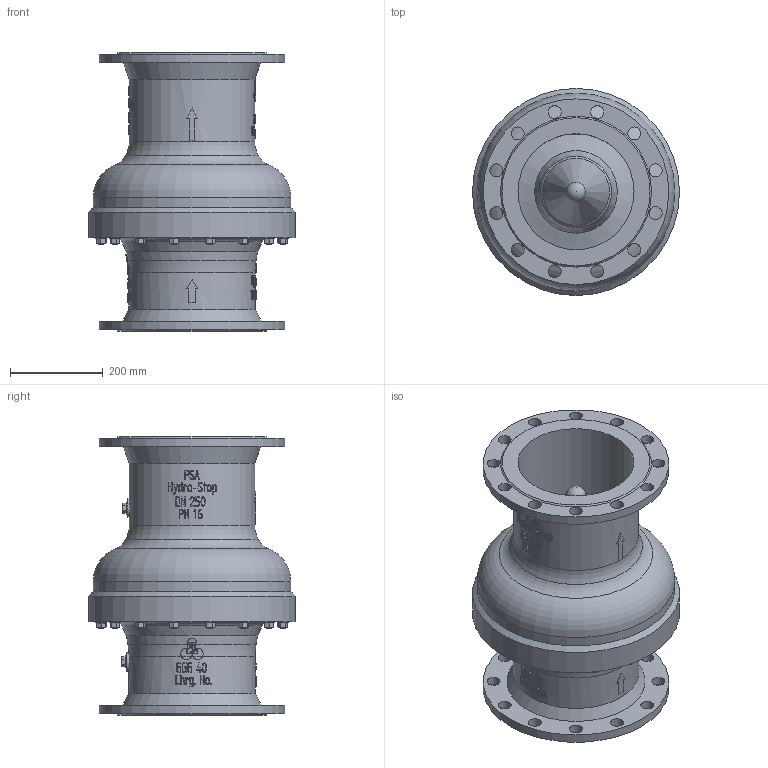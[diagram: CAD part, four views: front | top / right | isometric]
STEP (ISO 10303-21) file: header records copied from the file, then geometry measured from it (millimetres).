
FILE_DESCRIPTION(/* description */ ('PSA Hydro-Stop DN250 PN16'),/* implementation_level */ '2;1');
FILE_NAME(/* name */ 'PSA_Hydro-Stop_DN250_PN16',/* time_stamp */ '2024-10-09T15:18:45+02:00',/* author */ ('Christin-Michelle Fremgen'),/* organization */ ('PSA Wasserarmaturen GmbH'),/* preprocessor_version */ 'ST-DEVELOPER v18.104',/* originating_system */ 'Solid Edge',/* authorisation */ 'Unknown');
FILE_SCHEMA (('AUTOMOTIVE_DESIGN {1 0 10303 214 3 1 1}'));
Products named in the file (1): PSA_Hydro-Stop_DN250_PN16
Bounding box: 446 x 446 x 600 mm (x, y, z)
Volume: 23851895.4 mm3; surface area: 1969364.7 mm2
Topology: 1 solids, 23 shells, 1196 faces, 3010 edges, 2002 vertices
Faces by surface type: plane 625, cylinder 242, bspline 160, cone 133, torus 33, sphere 3
Full cylindrical faces by diameter (mm): 12 x32, 13 x16, 13.835 x3, 16 x1, 18.631 x1, 21 x2, 24 x16, 26 x2, 27 x2, 28 x24, 40 x2, 196 x1, 210 x1, 225 x1, 250 x2, 270 x1, 272 x1, 280 x1, 400 x2, 425.764 x1, 446 x1
Entity records: 55106 total; most frequent: CARTESIAN_POINT 20933, ORIENTED_EDGE 5180, DIRECTION 4835, EDGE_CURVE 2590, VERTEX_POINT 1837, AXIS2_PLACEMENT_3D 1824, FACE_BOUND 1675, EDGE_LOOP 1674
